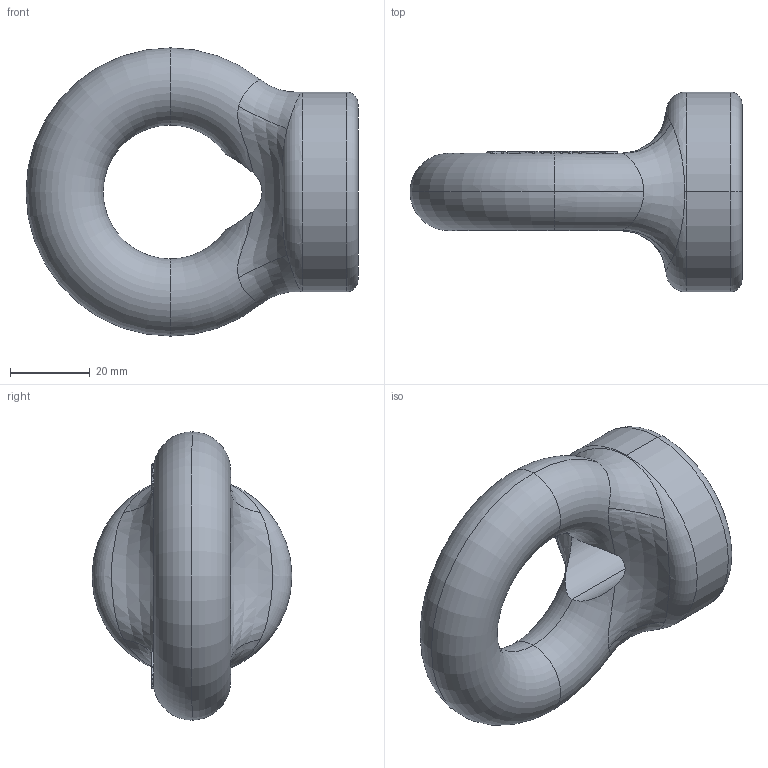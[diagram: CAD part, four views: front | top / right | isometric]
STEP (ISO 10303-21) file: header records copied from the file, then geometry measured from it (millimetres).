
FILE_DESCRIPTION (( 'STEP AP203' ), '1' );
FILE_NAME ('ENB875.STEP', '2010-02-10T08:53:34', ( 'User' ), ( 'Home' ), 'SwSTEP 2.0', 'SolidWorks 2003240', '' );
FILE_SCHEMA (( 'CONFIG_CONTROL_DESIGN' ));
Length unit declared in the file: millimetre
Products named in the file (1): ENB875
Bounding box: 83.05 x 50 x 72.1 mm (x, y, z)
Volume: 75512.3 mm3; surface area: 15514.8 mm2
Topology: 1 solids, 1 shells, 221 faces, 597 edges, 394 vertices
Faces by surface type: plane 131, bspline 52, torus 32, cylinder 4, cone 2
Entity records: 23167 total; most frequent: CARTESIAN_POINT 18409, ORIENTED_EDGE 1194, EDGE_CURVE 597, DIRECTION 586, VERTEX_POINT 394, B_SPLINE_CURVE_WITH_KNOTS 382, EDGE_LOOP 241, ADVANCED_FACE 221
